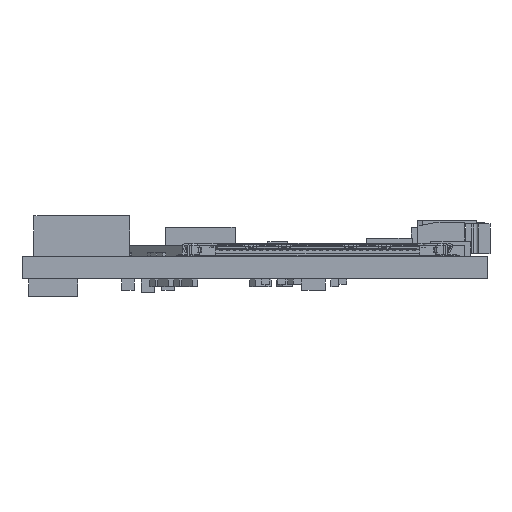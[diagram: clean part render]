
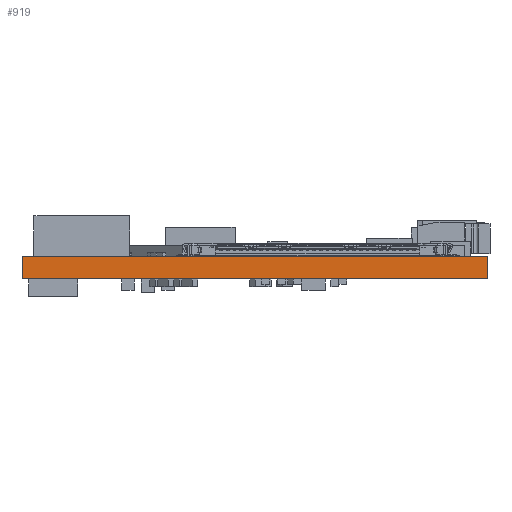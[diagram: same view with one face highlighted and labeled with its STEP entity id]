
A CAD part, left-side view. The second image highlights one B-rep face of the part: STEP entity #919.
In plain terms, the highlighted planar face has unit normal (-1, 0, 0).
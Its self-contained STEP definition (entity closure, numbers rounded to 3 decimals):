
#428 = EDGE_CURVE('',#429,#431,#433,.T.);
#429 = VERTEX_POINT('',#430);
#430 = CARTESIAN_POINT('',(-46.3,-27.6,0.));
#431 = VERTEX_POINT('',#432);
#432 = CARTESIAN_POINT('',(-46.3,-27.6,1.692));
#433 = SURFACE_CURVE('',#434,(#438,#450),.PCURVE_S1.);
#434 = LINE('',#435,#436);
#435 = CARTESIAN_POINT('',(-46.3,-27.6,0.));
#436 = VECTOR('',#437,1.);
#437 = DIRECTION('',(0.,0.,1.));
#438 = PCURVE('',#439,#444);
#439 = PLANE('',#440);
#440 = AXIS2_PLACEMENT_3D('',#441,#442,#443);
#441 = CARTESIAN_POINT('',(-46.3,-27.6,0.));
#442 = DIRECTION('',(0.,1.,0.));
#443 = DIRECTION('',(1.,0.,0.));
#444 = DEFINITIONAL_REPRESENTATION('',(#445),#449);
#445 = LINE('',#446,#447);
#446 = CARTESIAN_POINT('',(0.,0.));
#447 = VECTOR('',#448,1.);
#448 = DIRECTION('',(0.,-1.));
#449 = ( GEOMETRIC_REPRESENTATION_CONTEXT(2) 
PARAMETRIC_REPRESENTATION_CONTEXT() REPRESENTATION_CONTEXT('2D SPACE',''
  ) );
#450 = PCURVE('',#451,#456);
#451 = PLANE('',#452);
#452 = AXIS2_PLACEMENT_3D('',#453,#454,#455);
#453 = CARTESIAN_POINT('',(-46.3,7.4,0.));
#454 = DIRECTION('',(1.,0.,0.));
#455 = DIRECTION('',(0.,-1.,0.));
#456 = DEFINITIONAL_REPRESENTATION('',(#457),#461);
#457 = LINE('',#458,#459);
#458 = CARTESIAN_POINT('',(35.,0.));
#459 = VECTOR('',#460,1.);
#460 = DIRECTION('',(0.,-1.));
#461 = ( GEOMETRIC_REPRESENTATION_CONTEXT(2) 
PARAMETRIC_REPRESENTATION_CONTEXT() REPRESENTATION_CONTEXT('2D SPACE',''
  ) );
#479 = PLANE('',#480);
#480 = AXIS2_PLACEMENT_3D('',#481,#482,#483);
#481 = CARTESIAN_POINT('',(-46.3,-27.6,1.692));
#482 = DIRECTION('',(0.,0.,-1.));
#483 = DIRECTION('',(-1.,0.,0.));
#533 = PLANE('',#534);
#534 = AXIS2_PLACEMENT_3D('',#535,#536,#537);
#535 = CARTESIAN_POINT('',(-46.3,-27.6,0.));
#536 = DIRECTION('',(0.,0.,-1.));
#537 = DIRECTION('',(-1.,0.,0.));
#816 = PLANE('',#817);
#817 = AXIS2_PLACEMENT_3D('',#818,#819,#820);
#818 = CARTESIAN_POINT('',(3.6,7.4,0.));
#819 = DIRECTION('',(0.,-1.,0.));
#820 = DIRECTION('',(-1.,0.,0.));
#854 = VERTEX_POINT('',#855);
#855 = CARTESIAN_POINT('',(-46.3,7.4,1.692));
#876 = EDGE_CURVE('',#877,#854,#879,.T.);
#877 = VERTEX_POINT('',#878);
#878 = CARTESIAN_POINT('',(-46.3,7.4,0.));
#879 = SURFACE_CURVE('',#880,(#884,#891),.PCURVE_S1.);
#880 = LINE('',#881,#882);
#881 = CARTESIAN_POINT('',(-46.3,7.4,0.));
#882 = VECTOR('',#883,1.);
#883 = DIRECTION('',(0.,0.,1.));
#884 = PCURVE('',#816,#885);
#885 = DEFINITIONAL_REPRESENTATION('',(#886),#890);
#886 = LINE('',#887,#888);
#887 = CARTESIAN_POINT('',(49.9,0.));
#888 = VECTOR('',#889,1.);
#889 = DIRECTION('',(0.,-1.));
#890 = ( GEOMETRIC_REPRESENTATION_CONTEXT(2) 
PARAMETRIC_REPRESENTATION_CONTEXT() REPRESENTATION_CONTEXT('2D SPACE',''
  ) );
#891 = PCURVE('',#451,#892);
#892 = DEFINITIONAL_REPRESENTATION('',(#893),#897);
#893 = LINE('',#894,#895);
#894 = CARTESIAN_POINT('',(0.,0.));
#895 = VECTOR('',#896,1.);
#896 = DIRECTION('',(0.,-1.));
#897 = ( GEOMETRIC_REPRESENTATION_CONTEXT(2) 
PARAMETRIC_REPRESENTATION_CONTEXT() REPRESENTATION_CONTEXT('2D SPACE',''
  ) );
#919 = ADVANCED_FACE('',(#920),#451,.F.);
#920 = FACE_BOUND('',#921,.F.);
#921 = EDGE_LOOP('',(#922,#923,#944,#945));
#922 = ORIENTED_EDGE('',*,*,#876,.T.);
#923 = ORIENTED_EDGE('',*,*,#924,.T.);
#924 = EDGE_CURVE('',#854,#431,#925,.T.);
#925 = SURFACE_CURVE('',#926,(#930,#937),.PCURVE_S1.);
#926 = LINE('',#927,#928);
#927 = CARTESIAN_POINT('',(-46.3,7.4,1.692));
#928 = VECTOR('',#929,1.);
#929 = DIRECTION('',(0.,-1.,0.));
#930 = PCURVE('',#451,#931);
#931 = DEFINITIONAL_REPRESENTATION('',(#932),#936);
#932 = LINE('',#933,#934);
#933 = CARTESIAN_POINT('',(0.,-1.692));
#934 = VECTOR('',#935,1.);
#935 = DIRECTION('',(1.,0.));
#936 = ( GEOMETRIC_REPRESENTATION_CONTEXT(2) 
PARAMETRIC_REPRESENTATION_CONTEXT() REPRESENTATION_CONTEXT('2D SPACE',''
  ) );
#937 = PCURVE('',#479,#938);
#938 = DEFINITIONAL_REPRESENTATION('',(#939),#943);
#939 = LINE('',#940,#941);
#940 = CARTESIAN_POINT('',(0.,35.));
#941 = VECTOR('',#942,1.);
#942 = DIRECTION('',(0.,-1.));
#943 = ( GEOMETRIC_REPRESENTATION_CONTEXT(2) 
PARAMETRIC_REPRESENTATION_CONTEXT() REPRESENTATION_CONTEXT('2D SPACE',''
  ) );
#944 = ORIENTED_EDGE('',*,*,#428,.F.);
#945 = ORIENTED_EDGE('',*,*,#946,.F.);
#946 = EDGE_CURVE('',#877,#429,#947,.T.);
#947 = SURFACE_CURVE('',#948,(#952,#959),.PCURVE_S1.);
#948 = LINE('',#949,#950);
#949 = CARTESIAN_POINT('',(-46.3,7.4,0.));
#950 = VECTOR('',#951,1.);
#951 = DIRECTION('',(0.,-1.,0.));
#952 = PCURVE('',#451,#953);
#953 = DEFINITIONAL_REPRESENTATION('',(#954),#958);
#954 = LINE('',#955,#956);
#955 = CARTESIAN_POINT('',(0.,0.));
#956 = VECTOR('',#957,1.);
#957 = DIRECTION('',(1.,0.));
#958 = ( GEOMETRIC_REPRESENTATION_CONTEXT(2) 
PARAMETRIC_REPRESENTATION_CONTEXT() REPRESENTATION_CONTEXT('2D SPACE',''
  ) );
#959 = PCURVE('',#533,#960);
#960 = DEFINITIONAL_REPRESENTATION('',(#961),#965);
#961 = LINE('',#962,#963);
#962 = CARTESIAN_POINT('',(0.,35.));
#963 = VECTOR('',#964,1.);
#964 = DIRECTION('',(0.,-1.));
#965 = ( GEOMETRIC_REPRESENTATION_CONTEXT(2) 
PARAMETRIC_REPRESENTATION_CONTEXT() REPRESENTATION_CONTEXT('2D SPACE',''
  ) );
